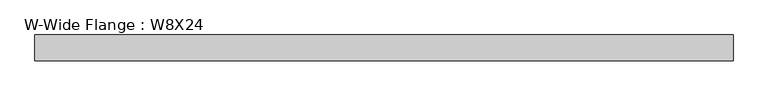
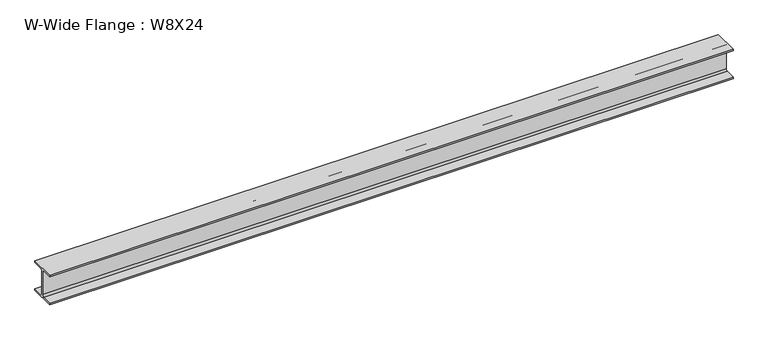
"""IFC4 building model written with IfcOpenShell, lengths in millimetres: beam geometry, W-Wide Flange : W8X24."""

from ifc_helpers import new_model, si_unit, point, frame, frame_2d, origin, place, context, project, spatial, polyline, circle_curve, trimmed, segment, composite_curve, outline, extrude, source, transform, mapped, element, save


def w_wide_flange_w8x24_315c8387(model_context):
    return source(origin(), model_context, "Body", "SweptSolid", [
        extrude(outline(composite_curve([segment(polyline([(82.55, -90.551), (82.55, -100.711), (-82.55, -100.711), (-82.55, -90.551), (-15.1765, -90.551)]), True, "CONTINUOUS"), segment(trimmed(circle_curve(frame_2d((-15.1765, -78.486)), 12.065), [point((-15.1765, -90.551))], [point((-3.1115, -78.486))], True, "CARTESIAN"), True, "CONTINUOUS"), segment(polyline([(-3.1115, -78.486), (-3.1115, 78.486)]), True, "CONTINUOUS"), segment(trimmed(circle_curve(frame_2d((-15.1765, 78.486)), 12.065), [point((-3.1115, 78.486))], [point((-15.1765, 90.551))], True, "CARTESIAN"), True, "CONTINUOUS"), segment(polyline([(-15.1765, 90.551), (-82.55, 90.551), (-82.55, 100.711), (82.55, 100.711), (82.55, 90.551), (15.1765, 90.551)]), True, "CONTINUOUS"), segment(trimmed(circle_curve(frame_2d((15.1765, 78.486)), 12.065), [point((15.1765, 90.551))], [point((3.1115, 78.486))], True, "CARTESIAN"), True, "CONTINUOUS"), segment(polyline([(3.1115, 78.486), (3.1115, -78.486)]), True, "CONTINUOUS"), segment(trimmed(circle_curve(frame_2d((15.1765, -78.486)), 12.065), [point((3.1115, -78.486))], [point((15.1765, -90.551))], True, "CARTESIAN"), True, "CONTINUOUS"), segment(polyline([(15.1765, -90.551), (82.55, -90.551)]), True, "CONTINUOUS")], self_intersect=False)), frame((-2165.35, 0.0, 0.0), z_axis=(1.0, 0.0, 0.0), x_axis=(0.0, 1.0, 0.0)), (0.0, 0.0, 1.0), 4438.65),
    ])


if __name__ == "__main__":
    model = new_model("IFC4")
    model_context = context("Model", 3, world=origin())
    ifc_project = project(units=[si_unit("LENGTHUNIT", "METRE", prefix="MILLI")], contexts=[model_context])
    site = spatial("IfcSite", under=ifc_project)
    building = spatial("IfcBuilding", under=site)
    placement = place(None, origin())
    w_wide_flange_w8x24_shape = w_wide_flange_w8x24_315c8387(model_context)
    element("IfcBeam", 1, ObjectType="W-Wide Flange : W8X24", at=placement, inside=building, context=model_context, shape_type="MappedRepresentation", body=[
        mapped(w_wide_flange_w8x24_shape, transform((0.0, 0.0, 0.0), x_axis=(1.0, 0.0, 0.0), y_axis=(0.0, 1.0, 0.0), z_axis=(0.0, 0.0, 1.0))),
    ])
    save(model, "model.ifc")
